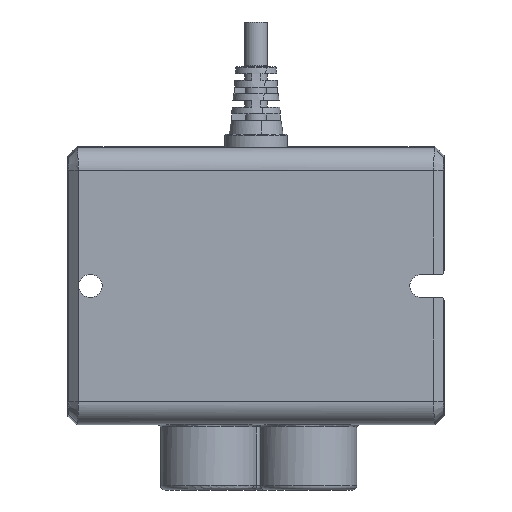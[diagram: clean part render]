
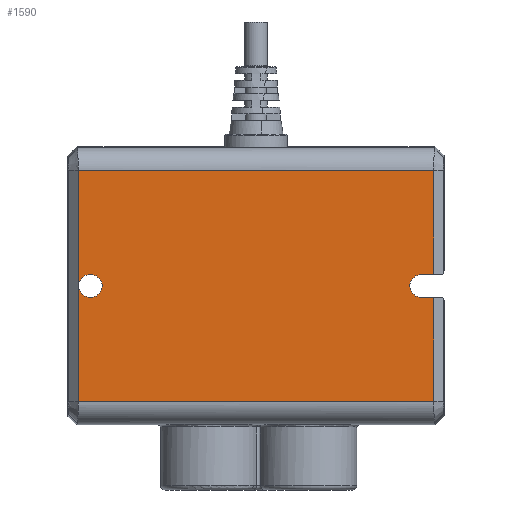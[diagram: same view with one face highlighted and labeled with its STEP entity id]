
A CAD part, front view. The second image highlights one B-rep face of the part: STEP entity #1590.
In plain terms, the highlighted planar face has unit normal (0, -1, 0).
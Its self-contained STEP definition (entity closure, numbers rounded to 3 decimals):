
#270 = EDGE_LOOP ( 'NONE', ( #9798, #9799 ) ) ;
#272 = EDGE_LOOP ( 'NONE', ( #9800, #9801, #9802, #9803, #9804, #9805, #9806, #9807 ) ) ;
#1590 = ADVANCED_FACE ( 'NONE', ( #8941, #8933 ), #10523, .F. ) ;
#3775 = VERTEX_POINT ( 'NONE', #4575 ) ;
#3786 = VERTEX_POINT ( 'NONE', #4586 ) ;
#3820 = VERTEX_POINT ( 'NONE', #4620 ) ;
#3822 = VERTEX_POINT ( 'NONE', #4622 ) ;
#3839 = VERTEX_POINT ( 'NONE', #4639 ) ;
#3889 = VERTEX_POINT ( 'NONE', #4689 ) ;
#3910 = VERTEX_POINT ( 'NONE', #4710 ) ;
#3930 = VERTEX_POINT ( 'NONE', #4730 ) ;
#3931 = VERTEX_POINT ( 'NONE', #4731 ) ;
#3941 = VERTEX_POINT ( 'NONE', #4741 ) ;
#4575 = CARTESIAN_POINT ( 'NONE',  ( 36.915, -18., -2.6 ) ) ;
#4586 = CARTESIAN_POINT ( 'NONE',  ( 39.686, -18., 25.772 ) ) ;
#4620 = CARTESIAN_POINT ( 'NONE',  ( -36.915, -18., -2.6 ) ) ;
#4622 = CARTESIAN_POINT ( 'NONE',  ( -36.915, -18., 2.6 ) ) ;
#4639 = CARTESIAN_POINT ( 'NONE',  ( -39.686, -18., 25.772 ) ) ;
#4689 = CARTESIAN_POINT ( 'NONE',  ( 39.686, -18., -2.6 ) ) ;
#4710 = CARTESIAN_POINT ( 'NONE',  ( -39.686, -18., -25.772 ) ) ;
#4730 = CARTESIAN_POINT ( 'NONE',  ( 39.686, -18., -25.772 ) ) ;
#4731 = CARTESIAN_POINT ( 'NONE',  ( 36.915, -18., 2.6 ) ) ;
#4741 = CARTESIAN_POINT ( 'NONE',  ( 39.686, -18., 2.6 ) ) ;
#4779 = CARTESIAN_POINT ( 'NONE',  ( 39.686, -18., 25.772 ) ) ;
#4780 = DIRECTION ( 'NONE',  ( 0., 0., 1. ) ) ;
#5114 = CARTESIAN_POINT ( 'NONE',  ( -36.915, -18., 0. ) ) ;
#5116 = DIRECTION ( 'NONE',  ( 0., 1., 0. ) ) ;
#5117 = DIRECTION ( 'NONE',  ( 0., 0., 1. ) ) ;
#6004 = CARTESIAN_POINT ( 'NONE',  ( 42., -18., 2.6 ) ) ;
#6005 = DIRECTION ( 'NONE',  ( 1., 0., 0. ) ) ;
#6014 = CARTESIAN_POINT ( 'NONE',  ( 36.915, -18., 0. ) ) ;
#6018 = CARTESIAN_POINT ( 'NONE',  ( -36.915, -18., 0. ) ) ;
#6019 = CARTESIAN_POINT ( 'NONE',  ( 41.686, -18., -25.772 ) ) ;
#6020 = DIRECTION ( 'NONE',  ( 1., 0., 0. ) ) ;
#6021 = CARTESIAN_POINT ( 'NONE',  ( 39.686, -18., 25.772 ) ) ;
#6022 = DIRECTION ( 'NONE',  ( 0., 0., 1. ) ) ;
#6023 = CARTESIAN_POINT ( 'NONE',  ( -41.686, -18., 25.772 ) ) ;
#6024 = DIRECTION ( 'NONE',  ( -1., 0., 0. ) ) ;
#6026 = DIRECTION ( 'NONE',  ( 0., 1., 0. ) ) ;
#6027 = DIRECTION ( 'NONE',  ( 0., 0., 1. ) ) ;
#6029 = DIRECTION ( 'NONE',  ( 0., 1., 0. ) ) ;
#6030 = DIRECTION ( 'NONE',  ( 0., 0., 1. ) ) ;
#6031 = CARTESIAN_POINT ( 'NONE',  ( -39.686, -18., -25.772 ) ) ;
#6032 = DIRECTION ( 'NONE',  ( 0., 0., -1. ) ) ;
#6033 = CARTESIAN_POINT ( 'NONE',  ( 42., -18., -2.6 ) ) ;
#6034 = DIRECTION ( 'NONE',  ( -1., 0., 0. ) ) ;
#7065 = AXIS2_PLACEMENT_3D ( 'NONE', #6018, #6026, #6027 ) ;
#7066 = AXIS2_PLACEMENT_3D ( 'NONE', #6014, #6029, #6030 ) ;
#7352 = AXIS2_PLACEMENT_3D ( 'NONE', #5114, #5116, #5117 ) ;
#7406 = AXIS2_PLACEMENT_3D ( 'NONE', #10522, #10525, #10526 ) ;
#7542 = EDGE_CURVE ( 'NONE', #3941, #3786, #8903, .T. ) ;
#7795 = EDGE_CURVE ( 'NONE', #3820, #3822, #8820, .T. ) ;
#7985 = EDGE_CURVE ( 'NONE', #3931, #3941, #8642, .T. ) ;
#7990 = EDGE_CURVE ( 'NONE', #3910, #3930, #8640, .T. ) ;
#7991 = EDGE_CURVE ( 'NONE', #3930, #3889, #8632, .T. ) ;
#7992 = EDGE_CURVE ( 'NONE', #3786, #3839, #8630, .T. ) ;
#7993 = EDGE_CURVE ( 'NONE', #3822, #3820, #8627, .T. ) ;
#7994 = EDGE_CURVE ( 'NONE', #3775, #3931, #8626, .T. ) ;
#7995 = EDGE_CURVE ( 'NONE', #3839, #3910, #8634, .T. ) ;
#7996 = EDGE_CURVE ( 'NONE', #3889, #3775, #8625, .T. ) ;
#8624 = VECTOR ( 'NONE', #6034, 1000. ) ;
#8625 = LINE ( 'NONE', #6033, #8624 ) ;
#8626 = CIRCLE ( 'NONE', #7066, 2.6 ) ;
#8627 = CIRCLE ( 'NONE', #7065, 2.6 ) ;
#8628 = VECTOR ( 'NONE', #6032, 1000. ) ;
#8629 = VECTOR ( 'NONE', #6024, 1000. ) ;
#8630 = LINE ( 'NONE', #6023, #8629 ) ;
#8631 = VECTOR ( 'NONE', #6022, 1000. ) ;
#8632 = LINE ( 'NONE', #6021, #8631 ) ;
#8633 = VECTOR ( 'NONE', #6020, 1000. ) ;
#8634 = LINE ( 'NONE', #6031, #8628 ) ;
#8639 = VECTOR ( 'NONE', #6005, 1000. ) ;
#8640 = LINE ( 'NONE', #6019, #8633 ) ;
#8642 = LINE ( 'NONE', #6004, #8639 ) ;
#8820 = CIRCLE ( 'NONE', #7352, 2.6 ) ;
#8902 = VECTOR ( 'NONE', #4780, 1000. ) ;
#8903 = LINE ( 'NONE', #4779, #8902 ) ;
#8933 = FACE_OUTER_BOUND ( 'NONE', #272, .T. ) ;
#8941 = FACE_BOUND ( 'NONE', #270, .T. ) ;
#9798 = ORIENTED_EDGE ( 'NONE', *, *, #7993, .T. ) ;
#9799 = ORIENTED_EDGE ( 'NONE', *, *, #7795, .T. ) ;
#9800 = ORIENTED_EDGE ( 'NONE', *, *, #7994, .T. ) ;
#9801 = ORIENTED_EDGE ( 'NONE', *, *, #7985, .T. ) ;
#9802 = ORIENTED_EDGE ( 'NONE', *, *, #7542, .T. ) ;
#9803 = ORIENTED_EDGE ( 'NONE', *, *, #7992, .T. ) ;
#9804 = ORIENTED_EDGE ( 'NONE', *, *, #7995, .T. ) ;
#9805 = ORIENTED_EDGE ( 'NONE', *, *, #7990, .T. ) ;
#9806 = ORIENTED_EDGE ( 'NONE', *, *, #7991, .T. ) ;
#9807 = ORIENTED_EDGE ( 'NONE', *, *, #7996, .T. ) ;
#10522 = CARTESIAN_POINT ( 'NONE',  ( 42., -18., 31. ) ) ;
#10523 = PLANE ( 'NONE',  #7406 ) ;
#10525 = DIRECTION ( 'NONE',  ( 0., 1., 0. ) ) ;
#10526 = DIRECTION ( 'NONE',  ( 0., 0., 1. ) ) ;
